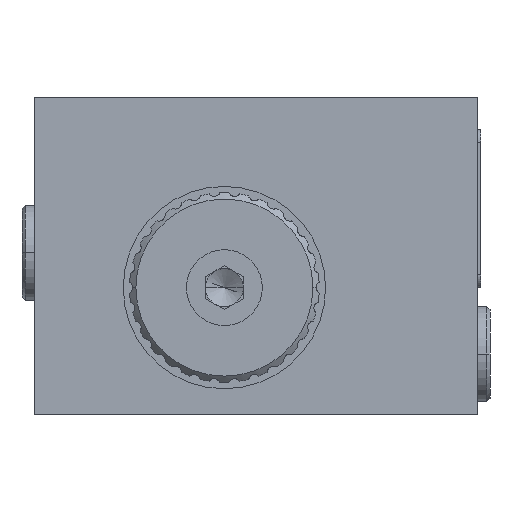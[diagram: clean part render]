
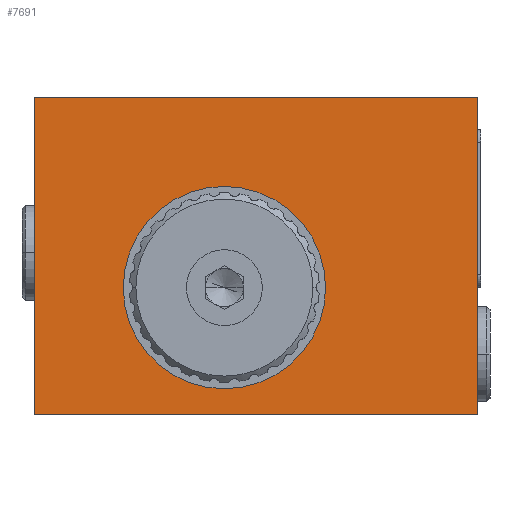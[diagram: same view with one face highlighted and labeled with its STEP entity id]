
A CAD part, left-side view. The second image highlights one B-rep face of the part: STEP entity #7691.
In plain terms, the highlighted planar face has unit normal (-1, 0, 0).
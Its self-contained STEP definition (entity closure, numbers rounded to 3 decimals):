
#91=DIRECTION('',(0.,1.,0.));
#92=VECTOR('',#91,70.);
#93=CARTESIAN_POINT('',(0.,0.,0.));
#94=LINE('',#93,#92);
#95=DIRECTION('',(0.,0.,-1.));
#96=VECTOR('',#95,50.);
#97=CARTESIAN_POINT('',(0.,0.,50.));
#98=LINE('',#97,#96);
#99=CARTESIAN_POINT('',(0.,40.,20.));
#100=DIRECTION('',(-1.,0.,0.));
#101=DIRECTION('',(0.,-1.,0.));
#102=AXIS2_PLACEMENT_3D('',#99,#100,#101);
#104=CARTESIAN_POINT('',(0.,40.,20.));
#105=DIRECTION('',(-1.,0.,0.));
#106=DIRECTION('',(0.,1.,0.));
#107=AXIS2_PLACEMENT_3D('',#104,#105,#106);
#113=DIRECTION('',(0.,0.,-1.));
#114=VECTOR('',#113,50.);
#115=CARTESIAN_POINT('',(0.,70.,50.));
#116=LINE('',#115,#114);
#183=DIRECTION('',(0.,1.,0.));
#184=VECTOR('',#183,70.);
#185=CARTESIAN_POINT('',(0.,0.,50.));
#186=LINE('',#185,#184);
#5949=CARTESIAN_POINT('',(0.,0.,0.));
#5950=CARTESIAN_POINT('',(0.,70.,0.));
#5951=VERTEX_POINT('',#5949);
#5952=VERTEX_POINT('',#5950);
#5993=CARTESIAN_POINT('',(0.,70.,50.));
#5994=VERTEX_POINT('',#5993);
#5995=CARTESIAN_POINT('',(0.,0.,50.));
#5996=VERTEX_POINT('',#5995);
#5997=CARTESIAN_POINT('',(0.,24.,20.));
#5998=CARTESIAN_POINT('',(0.,56.,20.));
#5999=VERTEX_POINT('',#5997);
#6000=VERTEX_POINT('',#5998);
#7671=CARTESIAN_POINT('',(0.,70.,0.));
#7672=DIRECTION('',(-1.,0.,0.));
#7673=DIRECTION('',(0.,-1.,0.));
#7674=AXIS2_PLACEMENT_3D('',#7671,#7672,#7673);
#7675=PLANE('',#7674);
#7676=ORIENTED_EDGE('',*,*,#7606,.T.);
#7678=ORIENTED_EDGE('',*,*,#7677,.F.);
#7680=ORIENTED_EDGE('',*,*,#7679,.F.);
#7682=ORIENTED_EDGE('',*,*,#7681,.T.);
#7683=EDGE_LOOP('',(#7676,#7678,#7680,#7682));
#7684=FACE_OUTER_BOUND('',#7683,.F.);
#7686=ORIENTED_EDGE('',*,*,#7685,.T.);
#7688=ORIENTED_EDGE('',*,*,#7687,.T.);
#7689=EDGE_LOOP('',(#7686,#7688));
#7690=FACE_BOUND('',#7689,.F.);
#103=CIRCLE('',#102,16.);
#108=CIRCLE('',#107,16.);
#7606=EDGE_CURVE('',#5951,#5952,#94,.T.);
#7677=EDGE_CURVE('',#5994,#5952,#116,.T.);
#7679=EDGE_CURVE('',#5996,#5994,#186,.T.);
#7681=EDGE_CURVE('',#5996,#5951,#98,.T.);
#7685=EDGE_CURVE('',#5999,#6000,#103,.T.);
#7687=EDGE_CURVE('',#6000,#5999,#108,.T.);
#7691=ADVANCED_FACE('',(#7684,#7690),#7675,.T.);
